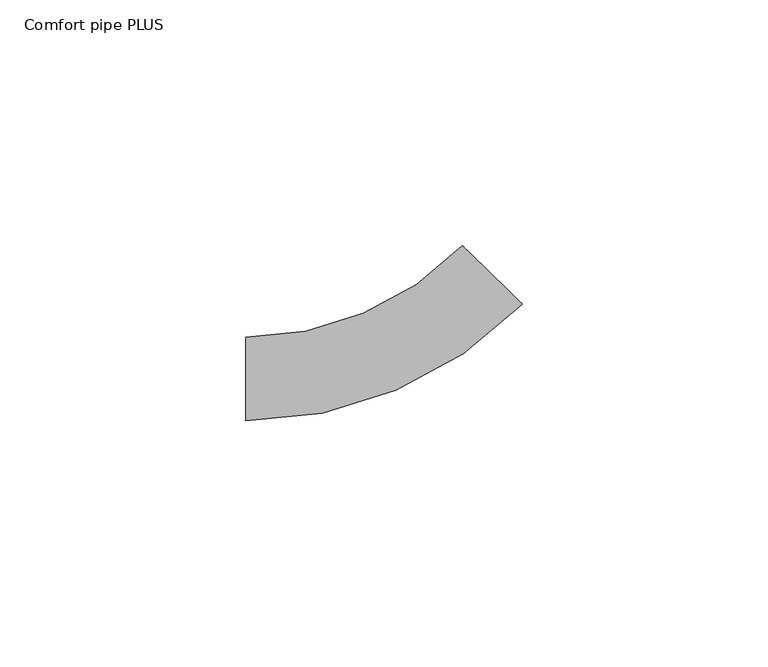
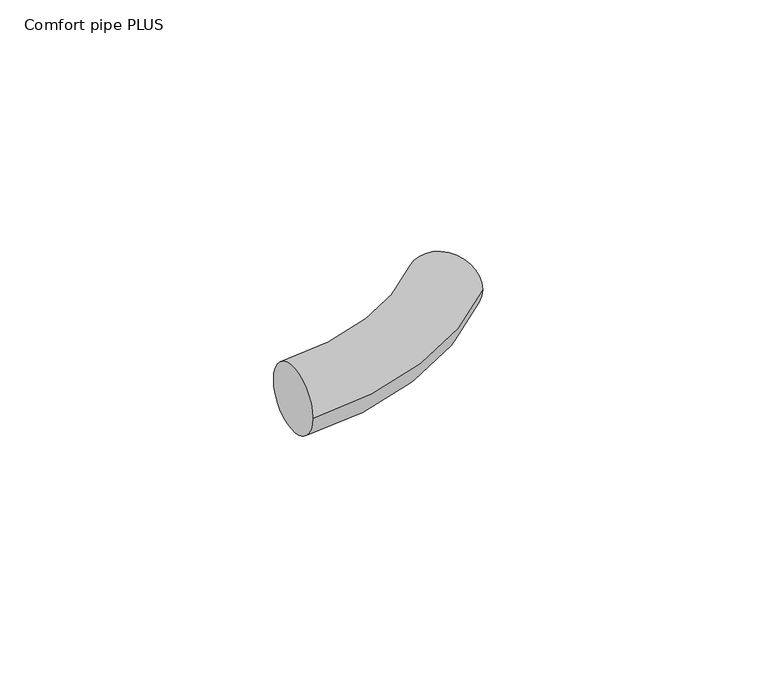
"""IFC4 building model written with IfcOpenShell, lengths in millimetres: pipe fitting geometry, 400_5-_Uponor_curved_Elbow : Comfort pipe PLUS."""

from ifc_helpers import new_model, si_unit, point, frame, origin, place, context, project, spatial, circle_curve, ellipse_curve, trimmed, source, transform, mapped, element, save
from ifc_brep_helpers import plane_surface, revolved_surface, advanced_brep


def comfort_pipe_plus_088f61cb(model_context):
    return source(origin(), model_context, "Body", "AdvancedBrep", [
        advanced_brep(
        [(-29.5418794, -8.5, 0.0), (-29.5418794, 8.5, 0.0), (26.699391, 15.2353261, 0.0), (14.5197528, 27.0951918, 0.0)],
        [
            (0, 1, circle_curve(frame((-29.5418794, 0.0, 0.0), z_axis=(-1.0, 0.0, 0.0), x_axis=(0.0, 1.0, 0.0)), 8.5)),
            (1, 0, circle_curve(frame((-29.5418794, 0.0, 0.0), z_axis=(-1.0, 0.0, 0.0), x_axis=(0.0, 1.0, 0.0)), 8.5)),
            (2, 3, circle_curve(frame((20.6095719, 21.165259, 0.0), z_axis=(0.697639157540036, 0.7164493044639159, 0.0), x_axis=(-0.7164493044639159, 0.697639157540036, 0.0)), 8.5)),
            (3, 2, circle_curve(frame((20.6095719, 21.165259, 0.0), z_axis=(0.697639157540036, 0.7164493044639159, 0.0), x_axis=(-0.7164493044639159, 0.697639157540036, 0.0)), 8.5)),
            (3, 1, circle_curve(frame((-29.5418794, 70.0, 0.0), z_axis=(0.0, 0.0, -1.0), x_axis=(0.0, -1.0, 0.0)), 61.5)),
            (0, 2, circle_curve(frame((-29.5418794, 70.0, 0.0), z_axis=(0.0, 0.0, 1.0), x_axis=(0.0, -1.0, 0.0)), 78.5)),
        ],
        [
            plane_surface(frame((-29.5418794, 0.0, 0.0), z_axis=(-1.0, 0.0, 0.0), x_axis=(0.0, 0.0, 1.0))),
            plane_surface(frame((20.6095719, 21.165259, 0.0), z_axis=(0.697639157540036, 0.7164493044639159, 0.0), x_axis=(0.0, 0.0, 1.0))),
            revolved_surface(trimmed(ellipse_curve(frame((-29.5418794, 0.0, 0.0), z_axis=(-1.0, 0.0, 0.0), x_axis=(0.0, 1.0, 0.0)), 8.5, 8.5), [point((-29.5418794, -8.5, 0.0))], [point((-29.5418794, 8.5, 0.0))], True, "CARTESIAN"), (-29.5418794, 70.0, 0.0), (0.0, 0.0, 1.0)),
            revolved_surface(trimmed(ellipse_curve(frame((-29.5418794, 0.0, 0.0), z_axis=(-1.0, 0.0, 0.0), x_axis=(0.0, 1.0, 0.0)), 8.5, 8.5), [point((-29.5418794, 8.5, 0.0))], [point((-29.5418794, -8.5, 0.0))], True, "CARTESIAN"), (-29.5418794, 70.0, 0.0), (0.0, 0.0, 1.0)),
        ],
        [
            (0, [[1, 2]]),
            (1, [[3, 4]]),
            (2, [[5, -1, 6, -4]]),
            (3, [[-6, -2, -5, -3]]),
        ],
    ),
    ])


if __name__ == "__main__":
    model = new_model("IFC4")
    model_context = context("Model", 3, world=origin())
    ifc_project = project(units=[si_unit("LENGTHUNIT", "METRE", prefix="MILLI")], contexts=[model_context])
    site = spatial("IfcSite", under=ifc_project)
    building = spatial("IfcBuilding", under=site)
    placement = place(None, origin())
    comfort_pipe_plus_shape = comfort_pipe_plus_088f61cb(model_context)
    element("IfcPipeFitting", 1, ObjectType="400_5-_Uponor_curved_Elbow : Comfort pipe PLUS", at=placement, inside=building, context=model_context, shape_type="MappedRepresentation", body=[
        mapped(comfort_pipe_plus_shape, transform((0.0, 0.0, 0.0), x_axis=(1.0, 0.0, 0.0), y_axis=(0.0, 1.0, 0.0), z_axis=(0.0, 0.0, 1.0))),
    ])
    save(model, "model.ifc")
